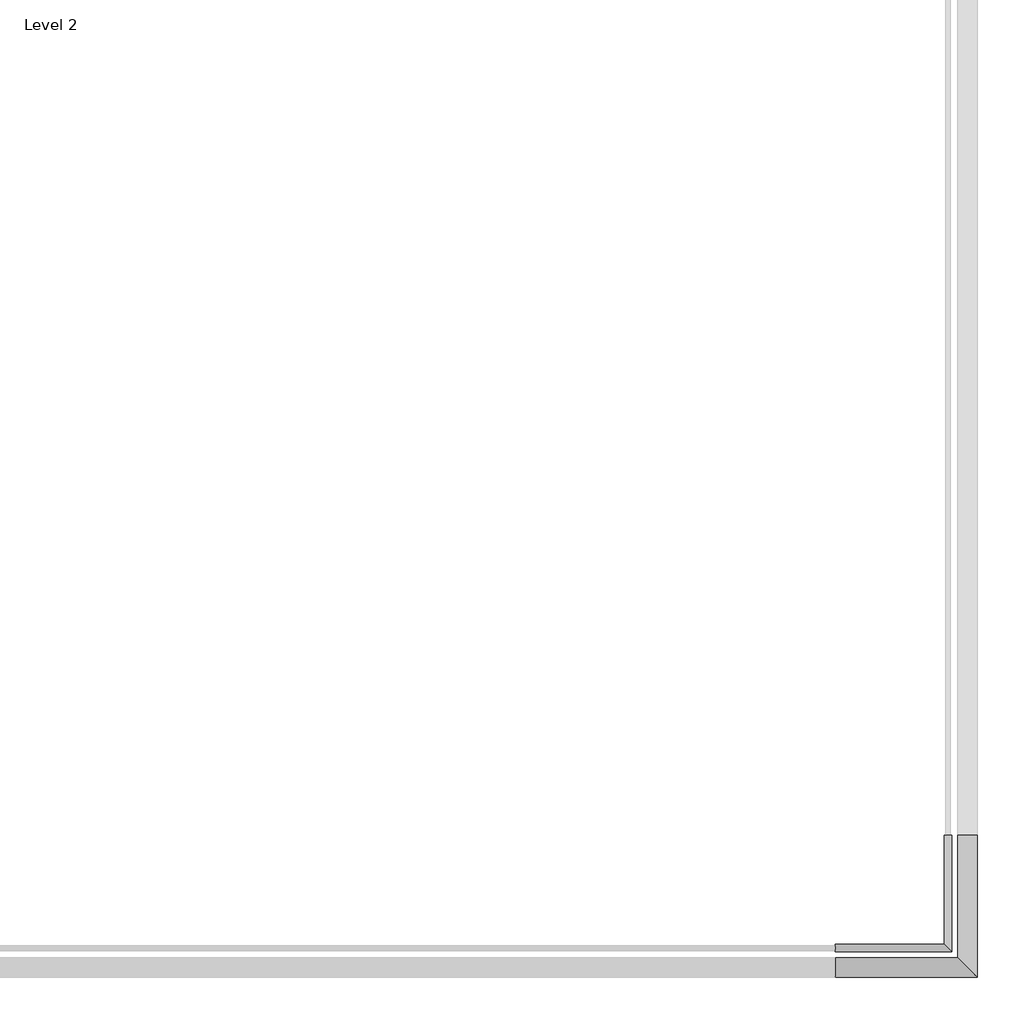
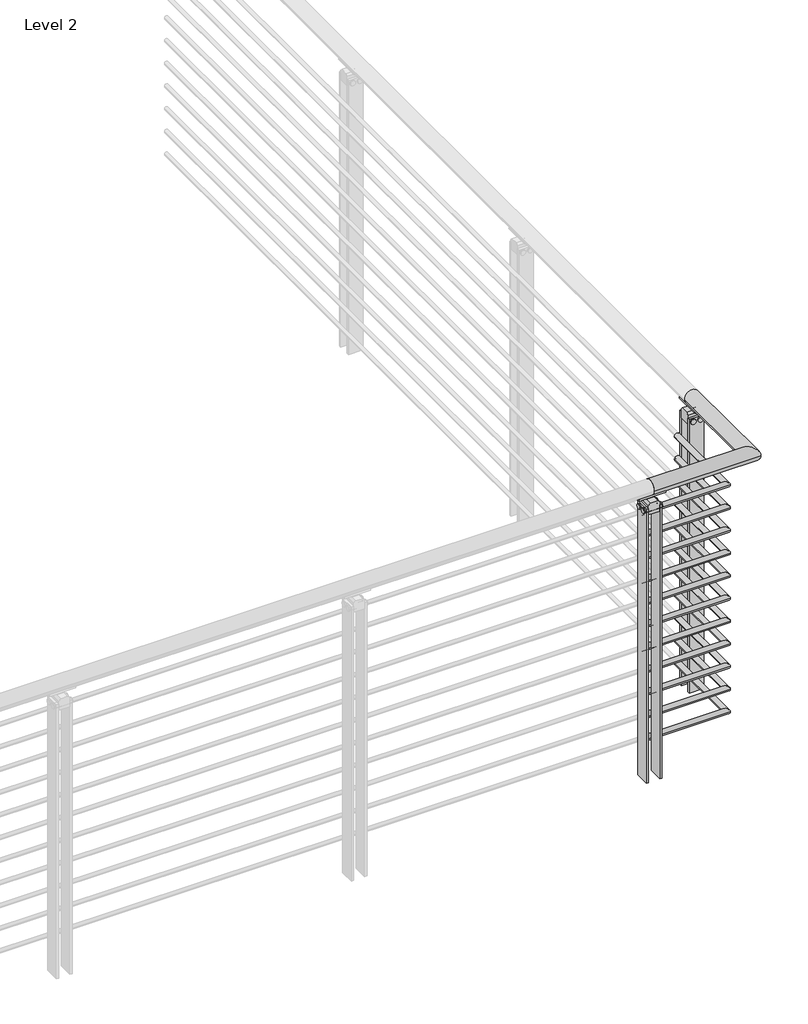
# One storey, part 14 of 31: 1 railing.
"""IFC4 building model written with IfcOpenShell, lengths in millimetres."""

from ifc_helpers import new_model, si_unit, point, frame, frame_2d, origin, place, context, project, spatial, polyline, circle_curve, ellipse_curve, trimmed, segment, composite_curve, outline, extrude, element, save
from ifc_brep_helpers import plane_surface, cylinder_surface, revolved_surface, advanced_brep

model = new_model("IFC4")

# Units and contexts
model_context = context("Model", 3, world=origin())
ifc_project = project(units=[si_unit("LENGTHUNIT", "METRE", prefix="MILLI")], contexts=[model_context])

# Site, building, storey
site = spatial("IfcSite", under=ifc_project)
building = spatial("IfcBuilding", under=site)
storey = spatial("IfcBuildingStorey", under=building, Name="Level 2", Elevation=3048.0)

# Railing
placement = place(None, origin())
element("IfcRailing", 1, ObjectType="VIVA-BLADE-Multiline-Weld Mount-Corner", at=placement, inside=storey, context=model_context, shape_type="SolidModel", body=[
    advanced_brep(
    [(46115.0879965, -70011.7426165, 4102.1), (46115.0879965, -69960.9426165, 4102.1), (46483.3879965, -70011.7426165, 4102.1), (46432.5879965, -69960.9426165, 4102.1), (46483.3879965, -69643.4426165, 4102.1), (46432.5879965, -69643.4426165, 4102.1)],
    [
        (0, 1, circle_curve(frame((46115.0879965, -69986.3426165, 4102.1), z_axis=(-1.0, 0.0, 0.0), x_axis=(0.0, 1.0, 0.0)), 25.4)),
        (1, 0, circle_curve(frame((46115.0879965, -69986.3426165, 4102.1), z_axis=(-1.0, 0.0, 0.0), x_axis=(0.0, 1.0, 0.0)), 25.4)),
        (0, 2),
        (2, 3, ellipse_curve(frame((46457.9879965, -69986.3426165, 4102.1), z_axis=(-0.7071067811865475, -0.7071067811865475, 0.0), x_axis=(-0.7071067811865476, 0.7071067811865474, 0.0)), 35.9210245, 25.4)),
        (3, 1),
        (3, 2, ellipse_curve(frame((46457.9879965, -69986.3426165, 4102.1), z_axis=(-0.7071067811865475, -0.7071067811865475, 0.0), x_axis=(-0.7071067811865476, 0.7071067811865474, 0.0)), 35.9210245, 25.4)),
        (4, 5, circle_curve(frame((46457.9879965, -69643.4426165, 4102.1), z_axis=(0.0, 1.0, 0.0), x_axis=(-1.0, 0.0, 0.0)), 25.4)),
        (5, 4, circle_curve(frame((46457.9879965, -69643.4426165, 4102.1), z_axis=(0.0, 1.0, 0.0), x_axis=(-1.0, 0.0, 0.0)), 25.4)),
        (2, 4),
        (5, 3),
    ],
    [
        plane_surface(frame((46115.0879965, -69986.3426165, 4127.5), z_axis=(-1.0, 0.0, 0.0), x_axis=(0.0, 1.0, 0.0))),
        cylinder_surface(frame((46115.0879965, -69986.3426165, 4102.1), z_axis=(-1.0, 0.0, 0.0), x_axis=(0.0, 1.0, 0.0)), 25.4),
        plane_surface(frame((46457.9879965, -69643.4426165, 4127.5), z_axis=(0.0, 1.0, 0.0), x_axis=(0.0, 0.0, 1.0))),
        cylinder_surface(frame((46457.9879965, -69986.3426165, 4102.1), z_axis=(0.0, -1.0, 0.0), x_axis=(-1.0, 0.0, 0.0)), 25.4),
    ],
    [
        (0, [[1, 2]]),
        (1, [[-1, 3, 4, 5]]),
        (1, [[-2, -5, 6, -3]]),
        (2, [[7, 8]]),
        (3, [[-4, 9, -8, 10]]),
        (3, [[-6, -10, -7, -9]]),
    ],
),
    advanced_brep(
    [(46115.0879965, -69926.0176165, 3978.275), (46115.0879965, -69945.0676165, 3978.275), (46397.6629965, -69926.0176165, 3978.275), (46416.7129965, -69945.0676165, 3978.275), (46397.6629965, -69643.4426165, 3978.275), (46416.7129965, -69643.4426165, 3978.275)],
    [
        (0, 1, circle_curve(frame((46115.0879965, -69935.5426165, 3978.275), z_axis=(-1.0, 0.0, 0.0), x_axis=(0.0, -1.0, 0.0)), 9.525)),
        (1, 0, circle_curve(frame((46115.0879965, -69935.5426165, 3978.275), z_axis=(-1.0, 0.0, 0.0), x_axis=(0.0, -1.0, 0.0)), 9.525)),
        (0, 2),
        (2, 3, ellipse_curve(frame((46407.1879965, -69935.5426165, 3978.275), z_axis=(-0.7071067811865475, -0.7071067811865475, 0.0), x_axis=(-0.7071067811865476, 0.7071067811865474, 0.0)), 13.4703842, 9.525)),
        (3, 1),
        (3, 2, ellipse_curve(frame((46407.1879965, -69935.5426165, 3978.275), z_axis=(-0.7071067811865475, -0.7071067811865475, 0.0), x_axis=(-0.7071067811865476, 0.7071067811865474, 0.0)), 13.4703842, 9.525)),
        (4, 5, circle_curve(frame((46407.1879965, -69643.4426165, 3978.275), z_axis=(0.0, 1.0, 0.0), x_axis=(1.0, 0.0, 0.0)), 9.525)),
        (5, 4, circle_curve(frame((46407.1879965, -69643.4426165, 3978.275), z_axis=(0.0, 1.0, 0.0), x_axis=(1.0, 0.0, 0.0)), 9.525)),
        (2, 4),
        (5, 3),
    ],
    [
        plane_surface(frame((46115.0879965, -69935.5426165, 3987.8), z_axis=(-1.0, 0.0, 0.0), x_axis=(0.0, 1.0, 0.0))),
        cylinder_surface(frame((46115.0879965, -69935.5426165, 3978.275), z_axis=(-1.0, 0.0, 0.0), x_axis=(0.0, -1.0, 0.0)), 9.525),
        plane_surface(frame((46407.1879965, -69643.4426165, 3987.8), z_axis=(0.0, 1.0, 0.0), x_axis=(0.0, 0.0, 1.0))),
        cylinder_surface(frame((46407.1879965, -69935.5426165, 3978.275), z_axis=(0.0, -1.0, 0.0), x_axis=(1.0, 0.0, 0.0)), 9.525),
    ],
    [
        (0, [[1, 2]]),
        (1, [[-1, 3, 4, 5]]),
        (1, [[-2, -5, 6, -3]]),
        (2, [[7, 8]]),
        (3, [[-4, 9, -8, 10]]),
        (3, [[-6, -10, -7, -9]]),
    ],
),
    advanced_brep(
    [(46115.0879965, -69926.0176165, 3895.725), (46115.0879965, -69945.0676165, 3895.725), (46397.6629965, -69926.0176165, 3895.725), (46416.7129965, -69945.0676165, 3895.725), (46397.6629965, -69643.4426165, 3895.725), (46416.7129965, -69643.4426165, 3895.725)],
    [
        (0, 1, circle_curve(frame((46115.0879965, -69935.5426165, 3895.725), z_axis=(-1.0, 0.0, 0.0), x_axis=(0.0, -1.0, 0.0)), 9.525)),
        (1, 0, circle_curve(frame((46115.0879965, -69935.5426165, 3895.725), z_axis=(-1.0, 0.0, 0.0), x_axis=(0.0, -1.0, 0.0)), 9.525)),
        (0, 2),
        (2, 3, ellipse_curve(frame((46407.1879965, -69935.5426165, 3895.725), z_axis=(-0.7071067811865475, -0.7071067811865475, 0.0), x_axis=(-0.7071067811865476, 0.7071067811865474, 0.0)), 13.4703842, 9.525)),
        (3, 1),
        (3, 2, ellipse_curve(frame((46407.1879965, -69935.5426165, 3895.725), z_axis=(-0.7071067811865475, -0.7071067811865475, 0.0), x_axis=(-0.7071067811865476, 0.7071067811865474, 0.0)), 13.4703842, 9.525)),
        (4, 5, circle_curve(frame((46407.1879965, -69643.4426165, 3895.725), z_axis=(0.0, 1.0, 0.0), x_axis=(1.0, 0.0, 0.0)), 9.525)),
        (5, 4, circle_curve(frame((46407.1879965, -69643.4426165, 3895.725), z_axis=(0.0, 1.0, 0.0), x_axis=(1.0, 0.0, 0.0)), 9.525)),
        (2, 4),
        (5, 3),
    ],
    [
        plane_surface(frame((46115.0879965, -69935.5426165, 3905.25), z_axis=(-1.0, 0.0, 0.0), x_axis=(0.0, 1.0, 0.0))),
        cylinder_surface(frame((46115.0879965, -69935.5426165, 3895.725), z_axis=(-1.0, 0.0, 0.0), x_axis=(0.0, -1.0, 0.0)), 9.525),
        plane_surface(frame((46407.1879965, -69643.4426165, 3905.25), z_axis=(0.0, 1.0, 0.0), x_axis=(0.0, 0.0, 1.0))),
        cylinder_surface(frame((46407.1879965, -69935.5426165, 3895.725), z_axis=(0.0, -1.0, 0.0), x_axis=(1.0, 0.0, 0.0)), 9.525),
    ],
    [
        (0, [[1, 2]]),
        (1, [[-1, 3, 4, 5]]),
        (1, [[-2, -5, 6, -3]]),
        (2, [[7, 8]]),
        (3, [[-4, 9, -8, 10]]),
        (3, [[-6, -10, -7, -9]]),
    ],
),
    advanced_brep(
    [(46115.0879965, -69926.0176165, 3813.175), (46115.0879965, -69945.0676165, 3813.175), (46397.6629965, -69926.0176165, 3813.175), (46416.7129965, -69945.0676165, 3813.175), (46397.6629965, -69643.4426165, 3813.175), (46416.7129965, -69643.4426165, 3813.175)],
    [
        (0, 1, circle_curve(frame((46115.0879965, -69935.5426165, 3813.175), z_axis=(-1.0, 0.0, 0.0), x_axis=(0.0, -1.0, 0.0)), 9.525)),
        (1, 0, circle_curve(frame((46115.0879965, -69935.5426165, 3813.175), z_axis=(-1.0, 0.0, 0.0), x_axis=(0.0, -1.0, 0.0)), 9.525)),
        (0, 2),
        (2, 3, ellipse_curve(frame((46407.1879965, -69935.5426165, 3813.175), z_axis=(-0.7071067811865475, -0.7071067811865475, 0.0), x_axis=(-0.7071067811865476, 0.7071067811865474, 0.0)), 13.4703842, 9.525)),
        (3, 1),
        (3, 2, ellipse_curve(frame((46407.1879965, -69935.5426165, 3813.175), z_axis=(-0.7071067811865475, -0.7071067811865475, 0.0), x_axis=(-0.7071067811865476, 0.7071067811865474, 0.0)), 13.4703842, 9.525)),
        (4, 5, circle_curve(frame((46407.1879965, -69643.4426165, 3813.175), z_axis=(0.0, 1.0, 0.0), x_axis=(1.0, 0.0, 0.0)), 9.525)),
        (5, 4, circle_curve(frame((46407.1879965, -69643.4426165, 3813.175), z_axis=(0.0, 1.0, 0.0), x_axis=(1.0, 0.0, 0.0)), 9.525)),
        (2, 4),
        (5, 3),
    ],
    [
        plane_surface(frame((46115.0879965, -69935.5426165, 3822.7), z_axis=(-1.0, 0.0, 0.0), x_axis=(0.0, 1.0, 0.0))),
        cylinder_surface(frame((46115.0879965, -69935.5426165, 3813.175), z_axis=(-1.0, 0.0, 0.0), x_axis=(0.0, -1.0, 0.0)), 9.525),
        plane_surface(frame((46407.1879965, -69643.4426165, 3822.7), z_axis=(0.0, 1.0, 0.0), x_axis=(0.0, 0.0, 1.0))),
        cylinder_surface(frame((46407.1879965, -69935.5426165, 3813.175), z_axis=(0.0, -1.0, 0.0), x_axis=(1.0, 0.0, 0.0)), 9.525),
    ],
    [
        (0, [[1, 2]]),
        (1, [[-1, 3, 4, 5]]),
        (1, [[-2, -5, 6, -3]]),
        (2, [[7, 8]]),
        (3, [[-4, 9, -8, 10]]),
        (3, [[-6, -10, -7, -9]]),
    ],
),
    advanced_brep(
    [(46115.0879965, -69926.0176165, 3730.625), (46115.0879965, -69945.0676165, 3730.625), (46397.6629965, -69926.0176165, 3730.625), (46416.7129965, -69945.0676165, 3730.625), (46397.6629965, -69643.4426165, 3730.625), (46416.7129965, -69643.4426165, 3730.625)],
    [
        (0, 1, circle_curve(frame((46115.0879965, -69935.5426165, 3730.625), z_axis=(-1.0, 0.0, 0.0), x_axis=(0.0, -1.0, 0.0)), 9.525)),
        (1, 0, circle_curve(frame((46115.0879965, -69935.5426165, 3730.625), z_axis=(-1.0, 0.0, 0.0), x_axis=(0.0, -1.0, 0.0)), 9.525)),
        (0, 2),
        (2, 3, ellipse_curve(frame((46407.1879965, -69935.5426165, 3730.625), z_axis=(-0.7071067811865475, -0.7071067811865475, 0.0), x_axis=(-0.7071067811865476, 0.7071067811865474, 0.0)), 13.4703842, 9.525)),
        (3, 1),
        (3, 2, ellipse_curve(frame((46407.1879965, -69935.5426165, 3730.625), z_axis=(-0.7071067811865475, -0.7071067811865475, 0.0), x_axis=(-0.7071067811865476, 0.7071067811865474, 0.0)), 13.4703842, 9.525)),
        (4, 5, circle_curve(frame((46407.1879965, -69643.4426165, 3730.625), z_axis=(0.0, 1.0, 0.0), x_axis=(1.0, 0.0, 0.0)), 9.525)),
        (5, 4, circle_curve(frame((46407.1879965, -69643.4426165, 3730.625), z_axis=(0.0, 1.0, 0.0), x_axis=(1.0, 0.0, 0.0)), 9.525)),
        (2, 4),
        (5, 3),
    ],
    [
        plane_surface(frame((46115.0879965, -69935.5426165, 3740.15), z_axis=(-1.0, 0.0, 0.0), x_axis=(0.0, 1.0, 0.0))),
        cylinder_surface(frame((46115.0879965, -69935.5426165, 3730.625), z_axis=(-1.0, 0.0, 0.0), x_axis=(0.0, -1.0, 0.0)), 9.525),
        plane_surface(frame((46407.1879965, -69643.4426165, 3740.15), z_axis=(0.0, 1.0, 0.0), x_axis=(0.0, 0.0, 1.0))),
        cylinder_surface(frame((46407.1879965, -69935.5426165, 3730.625), z_axis=(0.0, -1.0, 0.0), x_axis=(1.0, 0.0, 0.0)), 9.525),
    ],
    [
        (0, [[1, 2]]),
        (1, [[-1, 3, 4, 5]]),
        (1, [[-2, -5, 6, -3]]),
        (2, [[7, 8]]),
        (3, [[-4, 9, -8, 10]]),
        (3, [[-6, -10, -7, -9]]),
    ],
),
    advanced_brep(
    [(46115.0879965, -69926.0176165, 3648.075), (46115.0879965, -69945.0676165, 3648.075), (46397.6629965, -69926.0176165, 3648.075), (46416.7129965, -69945.0676165, 3648.075), (46397.6629965, -69643.4426165, 3648.075), (46416.7129965, -69643.4426165, 3648.075)],
    [
        (0, 1, circle_curve(frame((46115.0879965, -69935.5426165, 3648.075), z_axis=(-1.0, 0.0, 0.0), x_axis=(0.0, -1.0, 0.0)), 9.525)),
        (1, 0, circle_curve(frame((46115.0879965, -69935.5426165, 3648.075), z_axis=(-1.0, 0.0, 0.0), x_axis=(0.0, -1.0, 0.0)), 9.525)),
        (0, 2),
        (2, 3, ellipse_curve(frame((46407.1879965, -69935.5426165, 3648.075), z_axis=(-0.7071067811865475, -0.7071067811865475, 0.0), x_axis=(-0.7071067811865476, 0.7071067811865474, 0.0)), 13.4703842, 9.525)),
        (3, 1),
        (3, 2, ellipse_curve(frame((46407.1879965, -69935.5426165, 3648.075), z_axis=(-0.7071067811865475, -0.7071067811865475, 0.0), x_axis=(-0.7071067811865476, 0.7071067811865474, 0.0)), 13.4703842, 9.525)),
        (4, 5, circle_curve(frame((46407.1879965, -69643.4426165, 3648.075), z_axis=(0.0, 1.0, 0.0), x_axis=(1.0, 0.0, 0.0)), 9.525)),
        (5, 4, circle_curve(frame((46407.1879965, -69643.4426165, 3648.075), z_axis=(0.0, 1.0, 0.0), x_axis=(1.0, 0.0, 0.0)), 9.525)),
        (2, 4),
        (5, 3),
    ],
    [
        plane_surface(frame((46115.0879965, -69935.5426165, 3657.6), z_axis=(-1.0, 0.0, 0.0), x_axis=(0.0, 1.0, 0.0))),
        cylinder_surface(frame((46115.0879965, -69935.5426165, 3648.075), z_axis=(-1.0, 0.0, 0.0), x_axis=(0.0, -1.0, 0.0)), 9.525),
        plane_surface(frame((46407.1879965, -69643.4426165, 3657.6), z_axis=(0.0, 1.0, 0.0), x_axis=(0.0, 0.0, 1.0))),
        cylinder_surface(frame((46407.1879965, -69935.5426165, 3648.075), z_axis=(0.0, -1.0, 0.0), x_axis=(1.0, 0.0, 0.0)), 9.525),
    ],
    [
        (0, [[1, 2]]),
        (1, [[-1, 3, 4, 5]]),
        (1, [[-2, -5, 6, -3]]),
        (2, [[7, 8]]),
        (3, [[-4, 9, -8, 10]]),
        (3, [[-6, -10, -7, -9]]),
    ],
),
    advanced_brep(
    [(46115.0879965, -69926.0176165, 3565.525), (46115.0879965, -69945.0676165, 3565.525), (46397.6629965, -69926.0176165, 3565.525), (46416.7129965, -69945.0676165, 3565.525), (46397.6629965, -69643.4426165, 3565.525), (46416.7129965, -69643.4426165, 3565.525)],
    [
        (0, 1, circle_curve(frame((46115.0879965, -69935.5426165, 3565.525), z_axis=(-1.0, 0.0, 0.0), x_axis=(0.0, -1.0, 0.0)), 9.525)),
        (1, 0, circle_curve(frame((46115.0879965, -69935.5426165, 3565.525), z_axis=(-1.0, 0.0, 0.0), x_axis=(0.0, -1.0, 0.0)), 9.525)),
        (0, 2),
        (2, 3, ellipse_curve(frame((46407.1879965, -69935.5426165, 3565.525), z_axis=(-0.7071067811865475, -0.7071067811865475, 0.0), x_axis=(-0.7071067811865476, 0.7071067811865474, 0.0)), 13.4703842, 9.525)),
        (3, 1),
        (3, 2, ellipse_curve(frame((46407.1879965, -69935.5426165, 3565.525), z_axis=(-0.7071067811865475, -0.7071067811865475, 0.0), x_axis=(-0.7071067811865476, 0.7071067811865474, 0.0)), 13.4703842, 9.525)),
        (4, 5, circle_curve(frame((46407.1879965, -69643.4426165, 3565.525), z_axis=(0.0, 1.0, 0.0), x_axis=(1.0, 0.0, 0.0)), 9.525)),
        (5, 4, circle_curve(frame((46407.1879965, -69643.4426165, 3565.525), z_axis=(0.0, 1.0, 0.0), x_axis=(1.0, 0.0, 0.0)), 9.525)),
        (2, 4),
        (5, 3),
    ],
    [
        plane_surface(frame((46115.0879965, -69935.5426165, 3575.05), z_axis=(-1.0, 0.0, 0.0), x_axis=(0.0, 1.0, 0.0))),
        cylinder_surface(frame((46115.0879965, -69935.5426165, 3565.525), z_axis=(-1.0, 0.0, 0.0), x_axis=(0.0, -1.0, 0.0)), 9.525),
        plane_surface(frame((46407.1879965, -69643.4426165, 3575.05), z_axis=(0.0, 1.0, 0.0), x_axis=(0.0, 0.0, 1.0))),
        cylinder_surface(frame((46407.1879965, -69935.5426165, 3565.525), z_axis=(0.0, -1.0, 0.0), x_axis=(1.0, 0.0, 0.0)), 9.525),
    ],
    [
        (0, [[1, 2]]),
        (1, [[-1, 3, 4, 5]]),
        (1, [[-2, -5, 6, -3]]),
        (2, [[7, 8]]),
        (3, [[-4, 9, -8, 10]]),
        (3, [[-6, -10, -7, -9]]),
    ],
),
    advanced_brep(
    [(46115.0879965, -69926.0176165, 3482.975), (46115.0879965, -69945.0676165, 3482.975), (46397.6629965, -69926.0176165, 3482.975), (46416.7129965, -69945.0676165, 3482.975), (46397.6629965, -69643.4426165, 3482.975), (46416.7129965, -69643.4426165, 3482.975)],
    [
        (0, 1, circle_curve(frame((46115.0879965, -69935.5426165, 3482.975), z_axis=(-1.0, 0.0, 0.0), x_axis=(0.0, -1.0, 0.0)), 9.525)),
        (1, 0, circle_curve(frame((46115.0879965, -69935.5426165, 3482.975), z_axis=(-1.0, 0.0, 0.0), x_axis=(0.0, -1.0, 0.0)), 9.525)),
        (0, 2),
        (2, 3, ellipse_curve(frame((46407.1879965, -69935.5426165, 3482.975), z_axis=(-0.7071067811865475, -0.7071067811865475, 0.0), x_axis=(-0.7071067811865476, 0.7071067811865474, 0.0)), 13.4703842, 9.525)),
        (3, 1),
        (3, 2, ellipse_curve(frame((46407.1879965, -69935.5426165, 3482.975), z_axis=(-0.7071067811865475, -0.7071067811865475, 0.0), x_axis=(-0.7071067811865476, 0.7071067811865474, 0.0)), 13.4703842, 9.525)),
        (4, 5, circle_curve(frame((46407.1879965, -69643.4426165, 3482.975), z_axis=(0.0, 1.0, 0.0), x_axis=(1.0, 0.0, 0.0)), 9.525)),
        (5, 4, circle_curve(frame((46407.1879965, -69643.4426165, 3482.975), z_axis=(0.0, 1.0, 0.0), x_axis=(1.0, 0.0, 0.0)), 9.525)),
        (2, 4),
        (5, 3),
    ],
    [
        plane_surface(frame((46115.0879965, -69935.5426165, 3492.5), z_axis=(-1.0, 0.0, 0.0), x_axis=(0.0, 1.0, 0.0))),
        cylinder_surface(frame((46115.0879965, -69935.5426165, 3482.975), z_axis=(-1.0, 0.0, 0.0), x_axis=(0.0, -1.0, 0.0)), 9.525),
        plane_surface(frame((46407.1879965, -69643.4426165, 3492.5), z_axis=(0.0, 1.0, 0.0), x_axis=(0.0, 0.0, 1.0))),
        cylinder_surface(frame((46407.1879965, -69935.5426165, 3482.975), z_axis=(0.0, -1.0, 0.0), x_axis=(1.0, 0.0, 0.0)), 9.525),
    ],
    [
        (0, [[1, 2]]),
        (1, [[-1, 3, 4, 5]]),
        (1, [[-2, -5, 6, -3]]),
        (2, [[7, 8]]),
        (3, [[-4, 9, -8, 10]]),
        (3, [[-6, -10, -7, -9]]),
    ],
),
    advanced_brep(
    [(46115.0879965, -69926.0176165, 3400.425), (46115.0879965, -69945.0676165, 3400.425), (46397.6629965, -69926.0176165, 3400.425), (46416.7129965, -69945.0676165, 3400.425), (46397.6629965, -69643.4426165, 3400.425), (46416.7129965, -69643.4426165, 3400.425)],
    [
        (0, 1, circle_curve(frame((46115.0879965, -69935.5426165, 3400.425), z_axis=(-1.0, 0.0, 0.0), x_axis=(0.0, -1.0, 0.0)), 9.525)),
        (1, 0, circle_curve(frame((46115.0879965, -69935.5426165, 3400.425), z_axis=(-1.0, 0.0, 0.0), x_axis=(0.0, -1.0, 0.0)), 9.525)),
        (0, 2),
        (2, 3, ellipse_curve(frame((46407.1879965, -69935.5426165, 3400.425), z_axis=(-0.7071067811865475, -0.7071067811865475, 0.0), x_axis=(-0.7071067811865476, 0.7071067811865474, 0.0)), 13.4703842, 9.525)),
        (3, 1),
        (3, 2, ellipse_curve(frame((46407.1879965, -69935.5426165, 3400.425), z_axis=(-0.7071067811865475, -0.7071067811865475, 0.0), x_axis=(-0.7071067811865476, 0.7071067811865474, 0.0)), 13.4703842, 9.525)),
        (4, 5, circle_curve(frame((46407.1879965, -69643.4426165, 3400.425), z_axis=(0.0, 1.0, 0.0), x_axis=(1.0, 0.0, 0.0)), 9.525)),
        (5, 4, circle_curve(frame((46407.1879965, -69643.4426165, 3400.425), z_axis=(0.0, 1.0, 0.0), x_axis=(1.0, 0.0, 0.0)), 9.525)),
        (2, 4),
        (5, 3),
    ],
    [
        plane_surface(frame((46115.0879965, -69935.5426165, 3409.95), z_axis=(-1.0, 0.0, 0.0), x_axis=(0.0, 1.0, 0.0))),
        cylinder_surface(frame((46115.0879965, -69935.5426165, 3400.425), z_axis=(-1.0, 0.0, 0.0), x_axis=(0.0, -1.0, 0.0)), 9.525),
        plane_surface(frame((46407.1879965, -69643.4426165, 3409.95), z_axis=(0.0, 1.0, 0.0), x_axis=(0.0, 0.0, 1.0))),
        cylinder_surface(frame((46407.1879965, -69935.5426165, 3400.425), z_axis=(0.0, -1.0, 0.0), x_axis=(1.0, 0.0, 0.0)), 9.525),
    ],
    [
        (0, [[1, 2]]),
        (1, [[-1, 3, 4, 5]]),
        (1, [[-2, -5, 6, -3]]),
        (2, [[7, 8]]),
        (3, [[-4, 9, -8, 10]]),
        (3, [[-6, -10, -7, -9]]),
    ],
),
    advanced_brep(
    [(46115.0879965, -69926.0176165, 3317.875), (46115.0879965, -69945.0676165, 3317.875), (46397.6629965, -69926.0176165, 3317.875), (46416.7129965, -69945.0676165, 3317.875), (46397.6629965, -69643.4426165, 3317.875), (46416.7129965, -69643.4426165, 3317.875)],
    [
        (0, 1, circle_curve(frame((46115.0879965, -69935.5426165, 3317.875), z_axis=(-1.0, 0.0, 0.0), x_axis=(0.0, -1.0, 0.0)), 9.525)),
        (1, 0, circle_curve(frame((46115.0879965, -69935.5426165, 3317.875), z_axis=(-1.0, 0.0, 0.0), x_axis=(0.0, -1.0, 0.0)), 9.525)),
        (0, 2),
        (2, 3, ellipse_curve(frame((46407.1879965, -69935.5426165, 3317.875), z_axis=(-0.7071067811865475, -0.7071067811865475, 0.0), x_axis=(-0.7071067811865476, 0.7071067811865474, 0.0)), 13.4703842, 9.525)),
        (3, 1),
        (3, 2, ellipse_curve(frame((46407.1879965, -69935.5426165, 3317.875), z_axis=(-0.7071067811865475, -0.7071067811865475, 0.0), x_axis=(-0.7071067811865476, 0.7071067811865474, 0.0)), 13.4703842, 9.525)),
        (4, 5, circle_curve(frame((46407.1879965, -69643.4426165, 3317.875), z_axis=(0.0, 1.0, 0.0), x_axis=(1.0, 0.0, 0.0)), 9.525)),
        (5, 4, circle_curve(frame((46407.1879965, -69643.4426165, 3317.875), z_axis=(0.0, 1.0, 0.0), x_axis=(1.0, 0.0, 0.0)), 9.525)),
        (2, 4),
        (5, 3),
    ],
    [
        plane_surface(frame((46115.0879965, -69935.5426165, 3327.4), z_axis=(-1.0, 0.0, 0.0), x_axis=(0.0, 1.0, 0.0))),
        cylinder_surface(frame((46115.0879965, -69935.5426165, 3317.875), z_axis=(-1.0, 0.0, 0.0), x_axis=(0.0, -1.0, 0.0)), 9.525),
        plane_surface(frame((46407.1879965, -69643.4426165, 3327.4), z_axis=(0.0, 1.0, 0.0), x_axis=(0.0, 0.0, 1.0))),
        cylinder_surface(frame((46407.1879965, -69935.5426165, 3317.875), z_axis=(0.0, -1.0, 0.0), x_axis=(1.0, 0.0, 0.0)), 9.525),
    ],
    [
        (0, [[1, 2]]),
        (1, [[-1, 3, 4, 5]]),
        (1, [[-2, -5, 6, -3]]),
        (2, [[7, 8]]),
        (3, [[-4, 9, -8, 10]]),
        (3, [[-6, -10, -7, -9]]),
    ],
),
    advanced_brep(
    [(46115.0879965, -69926.0176165, 3235.325), (46115.0879965, -69945.0676165, 3235.325), (46397.6629965, -69926.0176165, 3235.325), (46416.7129965, -69945.0676165, 3235.325), (46397.6629965, -69643.4426165, 3235.325), (46416.7129965, -69643.4426165, 3235.325)],
    [
        (0, 1, circle_curve(frame((46115.0879965, -69935.5426165, 3235.325), z_axis=(-1.0, 0.0, 0.0), x_axis=(0.0, -1.0, 0.0)), 9.525)),
        (1, 0, circle_curve(frame((46115.0879965, -69935.5426165, 3235.325), z_axis=(-1.0, 0.0, 0.0), x_axis=(0.0, -1.0, 0.0)), 9.525)),
        (0, 2),
        (2, 3, ellipse_curve(frame((46407.1879965, -69935.5426165, 3235.325), z_axis=(-0.7071067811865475, -0.7071067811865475, 0.0), x_axis=(-0.7071067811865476, 0.7071067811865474, 0.0)), 13.4703842, 9.525)),
        (3, 1),
        (3, 2, ellipse_curve(frame((46407.1879965, -69935.5426165, 3235.325), z_axis=(-0.7071067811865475, -0.7071067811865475, 0.0), x_axis=(-0.7071067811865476, 0.7071067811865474, 0.0)), 13.4703842, 9.525)),
        (4, 5, circle_curve(frame((46407.1879965, -69643.4426165, 3235.325), z_axis=(0.0, 1.0, 0.0), x_axis=(1.0, 0.0, 0.0)), 9.525)),
        (5, 4, circle_curve(frame((46407.1879965, -69643.4426165, 3235.325), z_axis=(0.0, 1.0, 0.0), x_axis=(1.0, 0.0, 0.0)), 9.525)),
        (2, 4),
        (5, 3),
    ],
    [
        plane_surface(frame((46115.0879965, -69935.5426165, 3244.85), z_axis=(-1.0, 0.0, 0.0), x_axis=(0.0, 1.0, 0.0))),
        cylinder_surface(frame((46115.0879965, -69935.5426165, 3235.325), z_axis=(-1.0, 0.0, 0.0), x_axis=(0.0, -1.0, 0.0)), 9.525),
        plane_surface(frame((46407.1879965, -69643.4426165, 3244.85), z_axis=(0.0, 1.0, 0.0), x_axis=(0.0, 0.0, 1.0))),
        cylinder_surface(frame((46407.1879965, -69935.5426165, 3235.325), z_axis=(0.0, -1.0, 0.0), x_axis=(1.0, 0.0, 0.0)), 9.525),
    ],
    [
        (0, [[1, 2]]),
        (1, [[-1, 3, 4, 5]]),
        (1, [[-2, -5, 6, -3]]),
        (2, [[7, 8]]),
        (3, [[-4, 9, -8, 10]]),
        (3, [[-6, -10, -7, -9]]),
    ],
),
    advanced_brep(
    [(46115.0879965, -69926.0176165, 3152.775), (46115.0879965, -69945.0676165, 3152.775), (46397.6629965, -69926.0176165, 3152.775), (46416.7129965, -69945.0676165, 3152.775), (46397.6629965, -69643.4426165, 3152.775), (46416.7129965, -69643.4426165, 3152.775)],
    [
        (0, 1, circle_curve(frame((46115.0879965, -69935.5426165, 3152.775), z_axis=(-1.0, 0.0, 0.0), x_axis=(0.0, -1.0, 0.0)), 9.525)),
        (1, 0, circle_curve(frame((46115.0879965, -69935.5426165, 3152.775), z_axis=(-1.0, 0.0, 0.0), x_axis=(0.0, -1.0, 0.0)), 9.525)),
        (0, 2),
        (2, 3, ellipse_curve(frame((46407.1879965, -69935.5426165, 3152.775), z_axis=(-0.7071067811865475, -0.7071067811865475, 0.0), x_axis=(-0.7071067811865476, 0.7071067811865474, 0.0)), 13.4703842, 9.525)),
        (3, 1),
        (3, 2, ellipse_curve(frame((46407.1879965, -69935.5426165, 3152.775), z_axis=(-0.7071067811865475, -0.7071067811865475, 0.0), x_axis=(-0.7071067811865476, 0.7071067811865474, 0.0)), 13.4703842, 9.525)),
        (4, 5, circle_curve(frame((46407.1879965, -69643.4426165, 3152.775), z_axis=(0.0, 1.0, 0.0), x_axis=(1.0, 0.0, 0.0)), 9.525)),
        (5, 4, circle_curve(frame((46407.1879965, -69643.4426165, 3152.775), z_axis=(0.0, 1.0, 0.0), x_axis=(1.0, 0.0, 0.0)), 9.525)),
        (2, 4),
        (5, 3),
    ],
    [
        plane_surface(frame((46115.0879965, -69935.5426165, 3162.3), z_axis=(-1.0, 0.0, 0.0), x_axis=(0.0, 1.0, 0.0))),
        cylinder_surface(frame((46115.0879965, -69935.5426165, 3152.775), z_axis=(-1.0, 0.0, 0.0), x_axis=(0.0, -1.0, 0.0)), 9.525),
        plane_surface(frame((46407.1879965, -69643.4426165, 3162.3), z_axis=(0.0, 1.0, 0.0), x_axis=(0.0, 0.0, 1.0))),
        cylinder_surface(frame((46407.1879965, -69935.5426165, 3152.775), z_axis=(0.0, -1.0, 0.0), x_axis=(1.0, 0.0, 0.0)), 9.525),
    ],
    [
        (0, [[1, 2]]),
        (1, [[-1, 3, 4, 5]]),
        (1, [[-2, -5, 6, -3]]),
        (2, [[7, 8]]),
        (3, [[-4, 9, -8, 10]]),
        (3, [[-6, -10, -7, -9]]),
    ],
),
    advanced_brep(
    [(46445.2278729, -69598.2052165, 4080.0967655), (46470.0999374, -69598.2052165, 4079.9535285), (46472.9088677, -69598.2052165, 4075.1267745), (46441.3919755, -69598.2052165, 4075.707533), (46445.2278729, -69688.6800165, 4080.0967655), (46441.3919755, -69688.6800165, 4075.707533), (46473.0226611, -69688.6800165, 4075.1893964), (46470.1869095, -69688.6800165, 4080.0018447)],
    [
        (0, 1, circle_curve(frame((46457.7916758, -69598.2052165, 4102.2115898), z_axis=(0.0, -1.0, 0.0), x_axis=(-1.0, 0.0, 0.0)), 25.4345159)),
        (1, 2, circle_curve(frame((46471.4315626, -69598.2052165, 4077.4993599), z_axis=(0.0, 1.0, 0.0), x_axis=(-1.0, 0.0, 0.0)), 2.7949225)),
        (2, 3, circle_curve(frame((46457.6582127, -69598.2052165, 4102.9742164), z_axis=(0.0, 1.0, 0.0), x_axis=(-1.0, 0.0, 0.0)), 31.75)),
        (3, 0, circle_curve(frame((46443.6803152, -69598.2052165, 4077.5784521), z_axis=(0.0, 1.0, 0.0), x_axis=(-1.0, 0.0, 0.0)), 2.9558141)),
        (4, 5, circle_curve(frame((46443.6803152, -69688.6800165, 4077.5784521), z_axis=(0.0, -1.0, 0.0), x_axis=(-1.0, 0.0, 0.0)), 2.9558141)),
        (5, 6, circle_curve(frame((46457.6582127, -69688.6800165, 4102.9742164), z_axis=(0.0, -1.0, 0.0), x_axis=(-1.0, 0.0, 0.0)), 31.75)),
        (6, 7, circle_curve(frame((46471.4315626, -69688.6800165, 4077.4993599), z_axis=(0.0, -1.0, 0.0), x_axis=(-1.0, 0.0, 0.0)), 2.7949225)),
        (7, 4, circle_curve(frame((46457.7916758, -69688.6800165, 4102.2115898), z_axis=(0.0, 1.0, 0.0), x_axis=(-1.0, 0.0, 0.0)), 25.4345159)),
        (0, 4),
        (7, 1),
        (6, 2),
        (5, 3),
    ],
    [
        plane_surface(frame((46432.3571599, -69598.2052165, 4102.2115898), z_axis=(0.0, 1.0, 0.0), x_axis=(0.0, 0.0, -1.0))),
        plane_surface(frame((46432.3571599, -69688.6800165, 4102.2115898), z_axis=(0.0, -1.0, 0.0), x_axis=(0.0, 0.0, 1.0))),
        revolved_surface(polyline([(46432.3571599, -69688.6800165, 4102.2115898), (46432.3571599, -69598.2052165, 4102.2115898)]), (46457.7916758, -69688.6800165, 4102.2115898), (0.0, -1.0, 0.0)),
        cylinder_surface(frame((46471.4315626, -69688.6800165, 4077.4993599), z_axis=(0.0, 1.0, 0.0), x_axis=(-1.0, 0.0, 0.0)), 2.7949225),
        cylinder_surface(frame((46457.6582127, -69688.6800165, 4102.9742164), z_axis=(0.0, 1.0, 0.0), x_axis=(-1.0, 0.0, 0.0)), 31.75),
        cylinder_surface(frame((46443.6803152, -69688.6800165, 4077.5784521), z_axis=(0.0, 1.0, 0.0), x_axis=(-1.0, 0.0, 0.0)), 2.9558141),
    ],
    [
        (0, [[1, 2, 3, 4]]),
        (1, [[5, 6, 7, 8]]),
        (2, [[-1, 9, -8, 10]]),
        (3, [[-2, -10, -7, 11]]),
        (4, [[-3, -11, -6, 12]]),
        (5, [[-4, -12, -5, -9]]),
    ],
),
    extrude(outline(composite_curve([segment(polyline([(-69630.7426165, 4062.4125), (-69656.1426165, 4062.4125)]), True, "CONTINUOUS"), segment(trimmed(circle_curve(frame_2d((-69670.5105314, 4062.4125)), 14.3679149), [point((-69656.1426165, 4062.4125))], [point((-69670.5105314, 4076.7804149))], True, "CARTESIAN"), True, "CONTINUOUS"), segment(polyline([(-69670.5105314, 4076.7804149), (-69616.3747017, 4076.7804149)]), True, "CONTINUOUS"), segment(trimmed(circle_curve(frame_2d((-69616.3747017, 4062.4125)), 14.3679149), [point((-69616.3747017, 4076.7804149))], [point((-69630.7426165, 4062.4125))], True, "CARTESIAN"), True, "CONTINUOUS")], self_intersect=False)), frame((46455.4479965, 0.0, 0.0), z_axis=(1.0, 0.0, 0.0), x_axis=(0.0, 1.0, 0.0)), (0.0, 0.0, 1.0), 5.08),
    extrude(outline(polyline([(46432.5881998, -69670.5174522), (46432.5881998, -69662.4926165), (46483.3905244, -69662.4926165), (46483.3905244, -69670.5174522), (46432.5881998, -69670.5174522)])), frame((0.0, 0.0, 3048.0), z_axis=(0.0, 0.0, 1.0), x_axis=(1.0, 0.0, 0.0)), (0.0, 0.0, 1.0), 996.95),
    extrude(outline(composite_curve([segment(trimmed(circle_curve(frame_2d((4034.0416929, 46470.6904734)), 8.89), [point((4034.0416929, 46479.5804734))], [point((4034.0416929, 46461.8004734))], False, "CARTESIAN"), True, "CONTINUOUS"), segment(trimmed(circle_curve(frame_2d((4034.0416929, 46470.6904734)), 8.89), [point((4034.0416929, 46461.8004734))], [point((4034.0416929, 46479.5804734))], False, "CARTESIAN"), True, "CONTINUOUS")], self_intersect=False)), frame((0.0, -69675.1926165, 0.0), z_axis=(0.0, 1.0, 0.0), x_axis=(0.0, 0.0, 1.0)), (0.0, 0.0, 1.0), 63.4880631),
    extrude(outline(composite_curve([segment(trimmed(circle_curve(frame_2d((4034.0416929, 46445.2905755)), 8.89), [point((4034.0416929, 46454.1805755))], [point((4034.0416929, 46436.4005755))], False, "CARTESIAN"), True, "CONTINUOUS"), segment(trimmed(circle_curve(frame_2d((4034.0416929, 46445.2905755)), 8.89), [point((4034.0416929, 46436.4005755))], [point((4034.0416929, 46454.1805755))], False, "CARTESIAN"), True, "CONTINUOUS")], self_intersect=False)), frame((0.0, -69675.1926165, 0.0), z_axis=(0.0, 1.0, 0.0), x_axis=(0.0, 0.0, 1.0)), (0.0, 0.0, 1.0), 63.4880631),
    extrude(outline(polyline([(-69662.4926165, 4022.7123), (-69662.4926165, 4056.0625), (-69656.1426165, 4062.4125), (-69630.7426165, 4062.4125), (-69624.3926165, 4056.0625), (-69624.3926165, 4022.7123), (-69662.4926165, 4022.7123)])), frame((46432.5879965, 0.0, 0.0), z_axis=(1.0, 0.0, 0.0), x_axis=(0.0, 1.0, 0.0)), (0.0, 0.0, 1.0), 50.8025279),
    extrude(outline(polyline([(46432.5881998, -69624.3926546), (46432.5881998, -69616.3916546), (46483.3905244, -69616.3916546), (46483.3905244, -69624.3926546), (46432.5881998, -69624.3926546)])), frame((0.0, 0.0, 3048.0), z_axis=(0.0, 0.0, 1.0), x_axis=(1.0, 0.0, 0.0)), (0.0, 0.0, 1.0), 996.95),
    advanced_brep(
    [(46160.3253965, -69973.5824929, 4080.0967655), (46160.3253965, -69998.4545574, 4079.9535285), (46160.3253965, -70001.2634877, 4075.1267745), (46160.3253965, -69969.7465955, 4075.707533), (46069.8505965, -69973.5824929, 4080.0967655), (46069.8505965, -69969.7465955, 4075.707533), (46069.8505965, -70001.3772811, 4075.1893964), (46069.8505965, -69998.5415296, 4080.0018447)],
    [
        (0, 1, circle_curve(frame((46160.3253965, -69986.1462958, 4102.2115898), z_axis=(-1.0, 0.0, 0.0), x_axis=(0.0, 1.0, 0.0)), 25.4345159)),
        (1, 2, circle_curve(frame((46160.3253965, -69999.7861827, 4077.4993599), z_axis=(1.0, 0.0, 0.0), x_axis=(0.0, 1.0, 0.0)), 2.7949225)),
        (2, 3, circle_curve(frame((46160.3253965, -69986.0128327, 4102.9742164), z_axis=(1.0, 0.0, 0.0), x_axis=(0.0, 1.0, 0.0)), 31.75)),
        (3, 0, circle_curve(frame((46160.3253965, -69972.0349352, 4077.5784521), z_axis=(1.0, 0.0, 0.0), x_axis=(0.0, 1.0, 0.0)), 2.9558141)),
        (4, 5, circle_curve(frame((46069.8505965, -69972.0349352, 4077.5784521), z_axis=(-1.0, 0.0, 0.0), x_axis=(0.0, 1.0, 0.0)), 2.9558141)),
        (5, 6, circle_curve(frame((46069.8505965, -69986.0128327, 4102.9742164), z_axis=(-1.0, 0.0, 0.0), x_axis=(0.0, 1.0, 0.0)), 31.75)),
        (6, 7, circle_curve(frame((46069.8505965, -69999.7861827, 4077.4993599), z_axis=(-1.0, 0.0, 0.0), x_axis=(0.0, 1.0, 0.0)), 2.7949225)),
        (7, 4, circle_curve(frame((46069.8505965, -69986.1462958, 4102.2115898), z_axis=(1.0, 0.0, 0.0), x_axis=(0.0, 1.0, 0.0)), 25.4345159)),
        (0, 4),
        (7, 1),
        (6, 2),
        (5, 3),
    ],
    [
        plane_surface(frame((46160.3253965, -69960.7117799, 4102.2115898), z_axis=(1.0, 0.0, 0.0), x_axis=(0.0, 0.0, -1.0))),
        plane_surface(frame((46069.8505965, -69960.7117799, 4102.2115898), z_axis=(-1.0, 0.0, 0.0), x_axis=(0.0, 0.0, 1.0))),
        revolved_surface(polyline([(46069.8505965, -69960.71177990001, 4102.2115898), (46160.3253965, -69960.71177990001, 4102.2115898)]), (46069.8505965, -69986.1462958, 4102.2115898), (-1.0, 0.0, 0.0)),
        cylinder_surface(frame((46069.8505965, -69999.7861827, 4077.4993599), z_axis=(1.0, 0.0, 0.0), x_axis=(0.0, 1.0, 0.0)), 2.7949225),
        cylinder_surface(frame((46069.8505965, -69986.0128327, 4102.9742164), z_axis=(1.0, 0.0, 0.0), x_axis=(0.0, 1.0, 0.0)), 31.75),
        cylinder_surface(frame((46069.8505965, -69972.0349352, 4077.5784521), z_axis=(1.0, 0.0, 0.0), x_axis=(0.0, 1.0, 0.0)), 2.9558141),
    ],
    [
        (0, [[1, 2, 3, 4]]),
        (1, [[5, 6, 7, 8]]),
        (2, [[-1, 9, -8, 10]]),
        (3, [[-2, -10, -7, 11]]),
        (4, [[-3, -11, -6, 12]]),
        (5, [[-4, -12, -5, -9]]),
    ],
),
    extrude(outline(composite_curve([segment(trimmed(circle_curve(frame_2d((4062.4125, 46142.1559114)), 14.3679149), [point((4062.4125, 46127.7879965))], [point((4076.7804149, 46142.1559114))], True, "CARTESIAN"), True, "CONTINUOUS"), segment(polyline([(4076.7804149, 46142.1559114), (4076.7804149, 46088.0200816)]), True, "CONTINUOUS"), segment(trimmed(circle_curve(frame_2d((4062.4125, 46088.0200816)), 14.3679149), [point((4076.7804149, 46088.0200816))], [point((4062.4125, 46102.3879965))], True, "CARTESIAN"), True, "CONTINUOUS"), segment(polyline([(4062.4125, 46102.3879965), (4062.4125, 46127.7879965)]), True, "CONTINUOUS")], self_intersect=False)), frame((0.0, -69988.8826165, 0.0), z_axis=(0.0, 1.0, 0.0), x_axis=(0.0, 0.0, 1.0)), (0.0, 0.0, 1.0), 5.08),
    extrude(outline(polyline([(46088.0131608, -69960.9428199), (46096.0379965, -69960.9428199), (46096.0379965, -70011.7451445), (46088.0131608, -70011.7451445), (46088.0131608, -69960.9428199)])), frame((0.0, 0.0, 3048.0), z_axis=(0.0, 0.0, 1.0), x_axis=(1.0, 0.0, 0.0)), (0.0, 0.0, 1.0), 996.95),
    extrude(outline(composite_curve([segment(trimmed(circle_curve(frame_2d((-69999.0450935, 4034.0416929)), 8.89), [point((-70007.9350935, 4034.0416929))], [point((-69990.1550935, 4034.0416929))], False, "CARTESIAN"), True, "CONTINUOUS"), segment(trimmed(circle_curve(frame_2d((-69999.0450935, 4034.0416929)), 8.89), [point((-69990.1550935, 4034.0416929))], [point((-70007.9350935, 4034.0416929))], False, "CARTESIAN"), True, "CONTINUOUS")], self_intersect=False)), frame((46083.3379965, 0.0, 0.0), z_axis=(1.0, 0.0, 0.0), x_axis=(0.0, 1.0, 0.0)), (0.0, 0.0, 1.0), 63.4880631),
    extrude(outline(composite_curve([segment(trimmed(circle_curve(frame_2d((-69973.6451955, 4034.0416929)), 8.89), [point((-69982.5351955, 4034.0416929))], [point((-69964.7551955, 4034.0416929))], False, "CARTESIAN"), True, "CONTINUOUS"), segment(trimmed(circle_curve(frame_2d((-69973.6451955, 4034.0416929)), 8.89), [point((-69964.7551955, 4034.0416929))], [point((-69982.5351955, 4034.0416929))], False, "CARTESIAN"), True, "CONTINUOUS")], self_intersect=False)), frame((46083.3379965, 0.0, 0.0), z_axis=(1.0, 0.0, 0.0), x_axis=(0.0, 1.0, 0.0)), (0.0, 0.0, 1.0), 63.4880631),
    extrude(outline(polyline([(4022.7123, 46096.0379965), (4022.7123, 46134.1379965), (4056.0625, 46134.1379965), (4062.4125, 46127.7879965), (4062.4125, 46102.3879965), (4056.0625, 46096.0379965), (4022.7123, 46096.0379965)])), frame((0.0, -70011.7451445, 0.0), z_axis=(0.0, 1.0, 0.0), x_axis=(0.0, 0.0, 1.0)), (0.0, 0.0, 1.0), 50.8025279),
    extrude(outline(polyline([(46134.1379585, -69960.9428199), (46142.1389585, -69960.9428199), (46142.1389585, -70011.7451445), (46134.1379585, -70011.7451445), (46134.1379585, -69960.9428199)])), frame((0.0, 0.0, 3048.0), z_axis=(0.0, 0.0, 1.0), x_axis=(1.0, 0.0, 0.0)), (0.0, 0.0, 1.0), 996.95),
])

save(model, "model.ifc")
